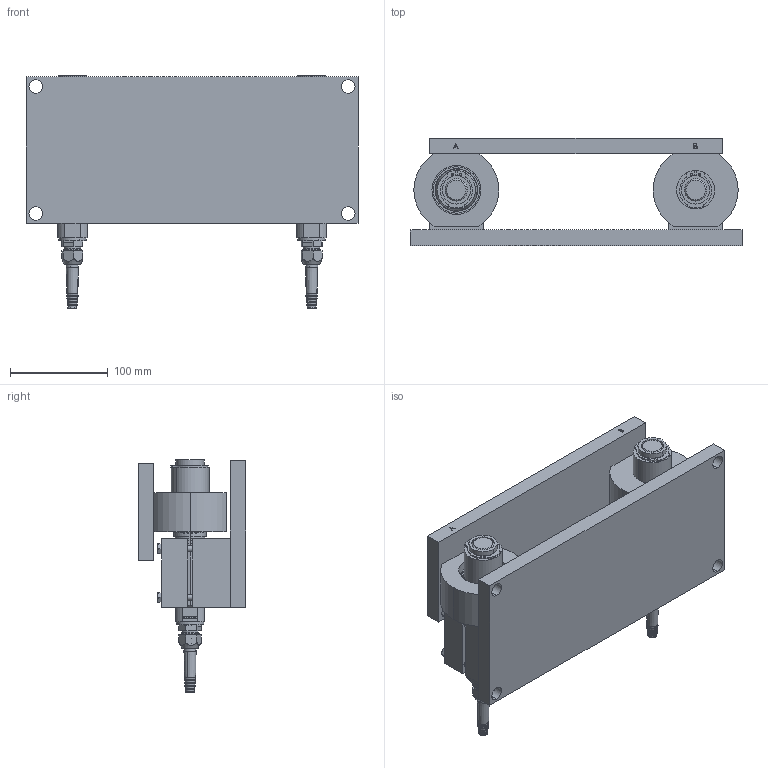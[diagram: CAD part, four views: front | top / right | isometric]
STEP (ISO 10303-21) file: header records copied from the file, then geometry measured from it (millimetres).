
FILE_DESCRIPTION (( 'STEP AP214' ), '1' );
FILE_NAME ('FMU-1 2-10 kN Module.STEP', '2021-06-17T08:42:43', ( '' ), ( '' ), 'SwSTEP 2.0', 'SolidWorks 2021', '' );
FILE_SCHEMA (( 'AUTOMOTIVE_DESIGN' ));
Length unit declared in the file: millimetre
Products named in the file (21): GE35ET-2RS-LS - Ledlager St嶚; 6335014r1; Pg9 - 1009.52 6_2_14; PRODUCT_NAME_3; Wiberger-sgh_60; FMU-1 2-10 kN Överplatta; 6335015r4; PRODUCT_NAME_2; hex bolt gradeab_iso_ISO 4014 - M6 x 45 x 18-N; PRODUCT_NAME_1; 6408184r1; 5205448r1; M26x1.5 - Pg9 - 6369829; FMU-1 2-10 kN Module; 5205446r1; FMU-1 2-10 kN Underplatta med fästen; Wiberger-frp_A2_4x14; 4087786r5; 1130486 - KIS-2 5kN Rostfri; 5205447r1; SGA_29
Assembly tree (26 placements, depth 3):
  FMU-1 2-10 kN Module
    FMU-1 2-10 kN Underplatta med fästen
    FMU-1 2-10 kN Överplatta
    6408184r1
    5205446r1  x2
    5205447r1
    5205448r1
    1130486 - KIS-2 5kN Rostfri  x2
      4087786r5
      6335015r4
      6335014r1
      M26x1.5 - Pg9 - 6369829
      Pg9 - 1009.52 6_2_14
      Wiberger-frp_A2_4x14
    GE35ET-2RS-LS - Ledlager St嶚
      PRODUCT_NAME_1
      PRODUCT_NAME_2
      PRODUCT_NAME_3
    Wiberger-sgh_60
    SGA_29  x2
    hex bolt gradeab_iso_ISO 4014 - M6 x 45 x 18-N  x4
Bounding box: 340 x 110 x 238 mm (x, y, z)
Volume: 2346666.4 mm3; surface area: 453534.2 mm2
Topology: 30 solids, 36 shells, 1269 faces, 3108 edges, 1995 vertices
Faces by surface type: plane 594, cylinder 353, cone 166, bspline 122, torus 34
Entity records: 32462 total; most frequent: CARTESIAN_POINT 13106, ORIENTED_EDGE 3668, DIRECTION 3495, EDGE_CURVE 1834, AXIS2_PLACEMENT_3D 1241, VERTEX_POINT 1193, VECTOR 1013, LINE 1013
